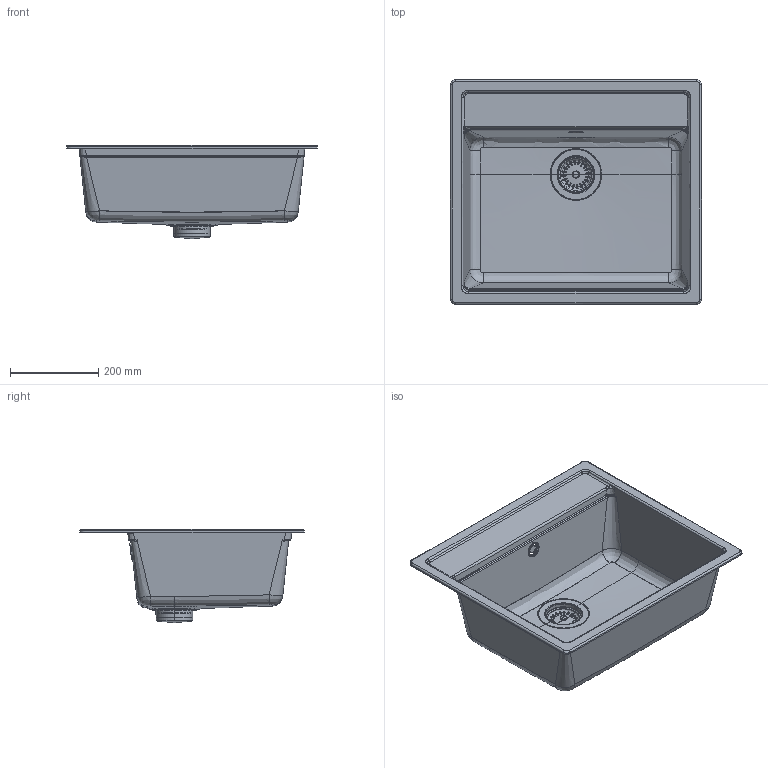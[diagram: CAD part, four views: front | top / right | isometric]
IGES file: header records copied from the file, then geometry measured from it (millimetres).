
Global section: file name: /Volumes/__KUNDEN/____01_SCHOCK/____projekte_schock/__RENDERINGS/__SPUELEN/02_3D Daten/02_PERSPEKTIVEN/Rhino/_SPU; native system: Rhinoceros ( Aug 27 2014 ); preprocessor: Trout Lake IGES 012 Aug 27 2014; date: 141104.092110; units: millimetre
Bounding box: 570 x 510 x 212.25 mm (x, y, z)
Surface area: 583704.9 mm2 (no closed solid volume)
Topology: 0 solids, 0 shells, 332 faces, 39255 edges, 39245 vertices
Faces by surface type: bspline 332
